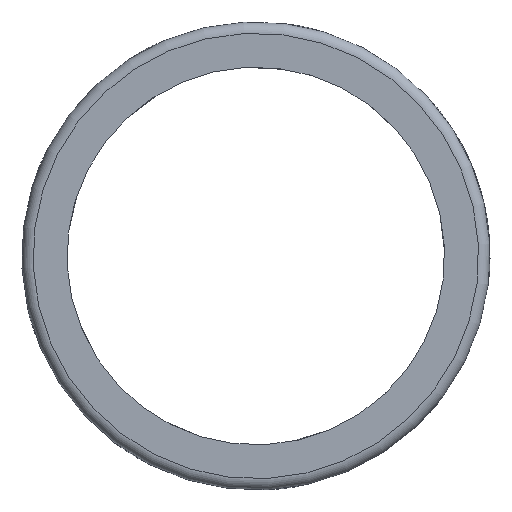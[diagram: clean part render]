
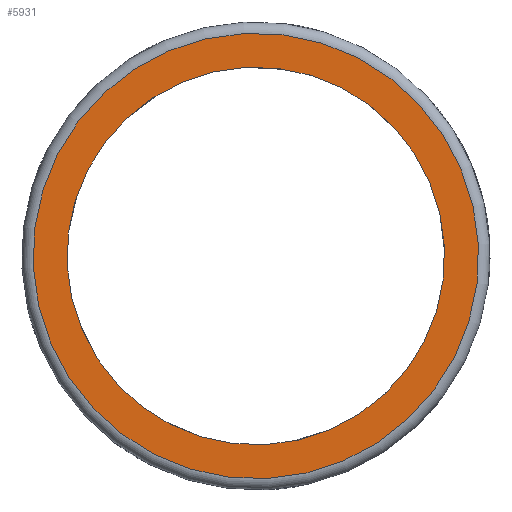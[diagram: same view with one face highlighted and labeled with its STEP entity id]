
A CAD part, left-side view. The second image highlights one B-rep face of the part: STEP entity #5931.
In plain terms, the highlighted planar face has unit normal (-1, 0, 0).
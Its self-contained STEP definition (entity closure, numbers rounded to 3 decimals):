
#122=PLANE('',#6374);
#1379=CIRCLE('',#6370,25.);
#1382=CIRCLE('',#6375,29.5);
#1782=ORIENTED_EDGE('',*,*,#3573,.T.);
#1783=ORIENTED_EDGE('',*,*,#3550,.T.);
#3550=EDGE_CURVE('',#4446,#4446,#1379,.T.);
#3573=EDGE_CURVE('',#4469,#4469,#1382,.F.);
#4446=VERTEX_POINT('',#9354);
#4469=VERTEX_POINT('',#9442);
#5054=EDGE_LOOP('',(#1782));
#5055=EDGE_LOOP('',(#1783));
#5487=FACE_BOUND('',#5054,.T.);
#5488=FACE_BOUND('',#5055,.T.);
#5931=ADVANCED_FACE('',(#5487,#5488),#122,.F.);
#6370=AXIS2_PLACEMENT_3D('',#9353,#6970,#6971);
#6374=AXIS2_PLACEMENT_3D('',#9440,#6988,#6989);
#6375=AXIS2_PLACEMENT_3D('',#9441,#6990,#6991);
#6970=DIRECTION('',(1.,0.,0.));
#6971=DIRECTION('',(0.,0.292,-0.956));
#6988=DIRECTION('',(1.,0.,0.));
#6989=DIRECTION('',(0.,0.292,-0.956));
#6990=DIRECTION('',(1.,0.,0.));
#6991=DIRECTION('',(0.,0.292,-0.956));
#9353=CARTESIAN_POINT('',(-35.,0.,0.));
#9354=CARTESIAN_POINT('',(-35.,7.309,-23.908));
#9440=CARTESIAN_POINT('',(-35.,0.,0.));
#9441=CARTESIAN_POINT('',(-35.,0.,0.));
#9442=CARTESIAN_POINT('',(-35.,8.625,-28.211));
